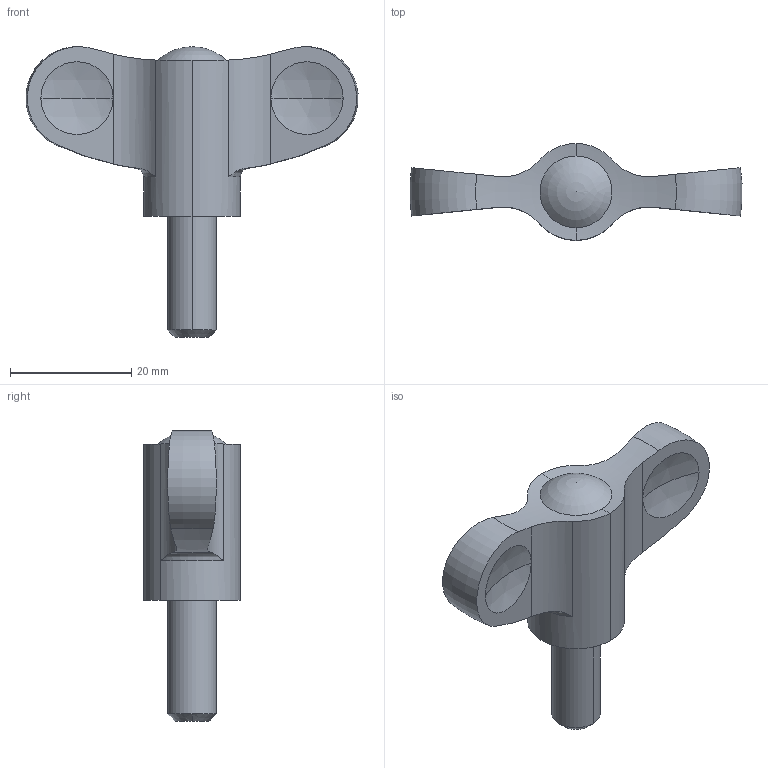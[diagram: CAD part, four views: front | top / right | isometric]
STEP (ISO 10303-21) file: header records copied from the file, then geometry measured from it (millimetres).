
FILE_DESCRIPTION (( 'STEP AP203' ), '1' );
FILE_NAME ('ewn55x20sus-lb.STEP', '2021-10-25T02:21:17', ( '' ), ( '' ), 'SwSTEP 2.0', 'SolidWorks 2020', '' );
FILE_SCHEMA (( 'CONFIG_CONTROL_DESIGN' ));
Length unit declared in the file: millimetre
Products named in the file (1): ewn55x20sus-lb
Bounding box: 54.87 x 16 x 48 mm (x, y, z)
Volume: 10001.3 mm3; surface area: 3895.8 mm2
Topology: 1 solids, 1 shells, 36 faces, 101 edges, 69 vertices
Faces by surface type: cylinder 11, sphere 9, torus 8, plane 6, cone 2
Entity records: 1546 total; most frequent: CARTESIAN_POINT 568, ORIENTED_EDGE 196, DIRECTION 185, EDGE_CURVE 98, AXIS2_PLACEMENT_3D 82, VERTEX_POINT 67, CIRCLE 45, EDGE_LOOP 39
